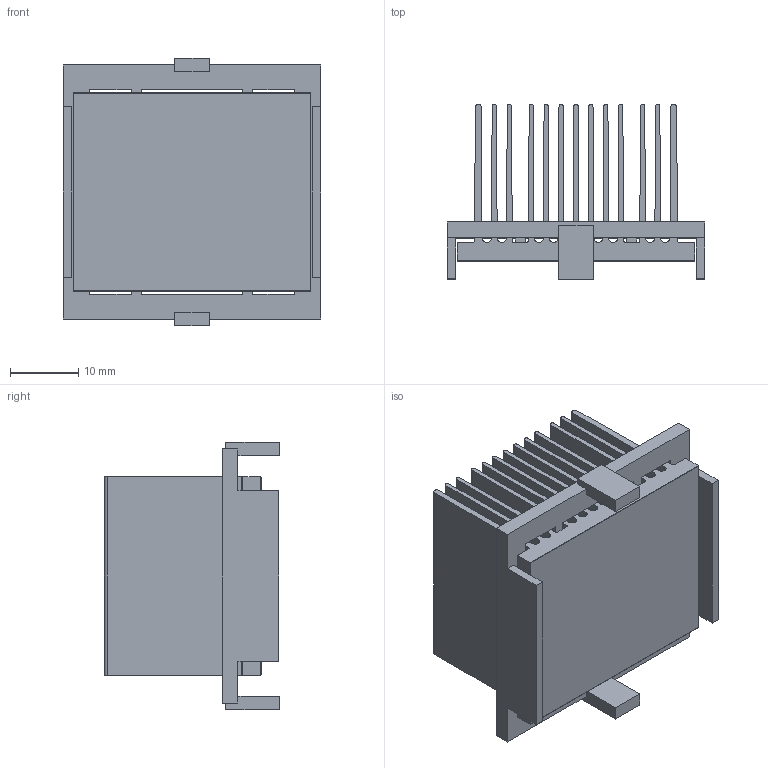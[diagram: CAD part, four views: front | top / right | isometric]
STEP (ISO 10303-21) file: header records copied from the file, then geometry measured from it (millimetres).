
FILE_DESCRIPTION (( 'STEP AP214' ), '1' );
FILE_NAME ('INH35001-23-2.6K29.STEP', '2023-02-17T22:49:35', ( '' ), ( '' ), 'SwSTEP 2.0', 'SolidWorks 2020', '' );
FILE_SCHEMA (( 'AUTOMOTIVE_DESIGN' ));
Length unit declared in the file: millimetre
Products named in the file (1): INH35001-23-2.6K29
Bounding box: 37.7 x 25.66 x 39.2 mm (x, y, z)
Volume: 10409.9 mm3; surface area: 22337.8 mm2
Topology: 3 solids, 3 shells, 144 faces, 414 edges, 276 vertices
Faces by surface type: plane 105, cylinder 39
Entity records: 6336 total; most frequent: CARTESIAN_POINT 835, ORIENTED_EDGE 828, DIRECTION 782, EDGE_CURVE 414, LINE 336, VECTOR 336, VERTEX_POINT 276, AXIS2_PLACEMENT_3D 223
